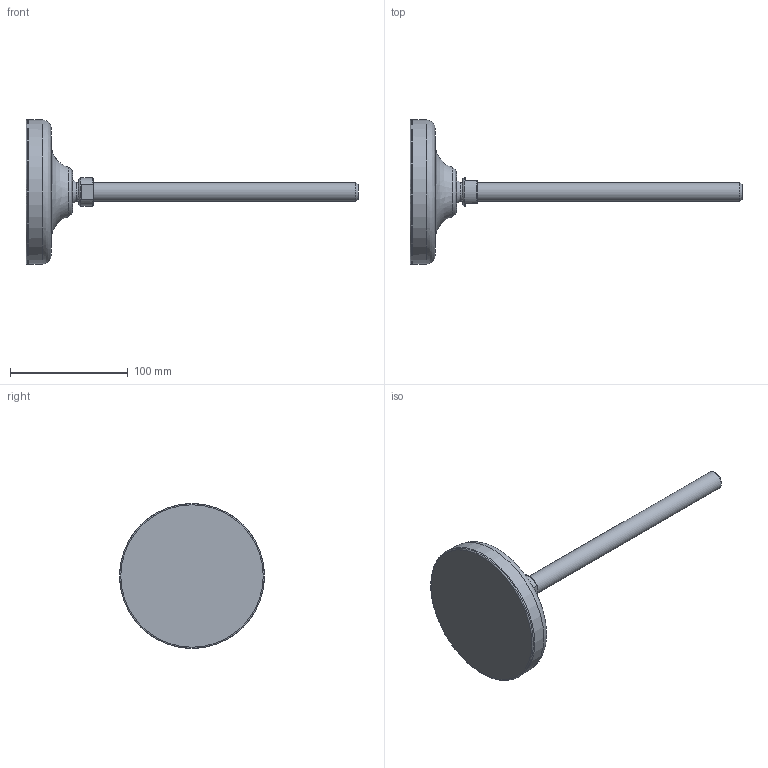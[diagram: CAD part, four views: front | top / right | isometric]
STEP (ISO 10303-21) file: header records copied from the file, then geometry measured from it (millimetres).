
FILE_DESCRIPTION(('STEP AP203'),'2;1');
FILE_NAME('10389.stp','2016-01-28T14:16:31',(''),(''),'2008.1.107','THINKDESIGN','');
FILE_SCHEMA(('CONFIG_CONTROL_DESIGN'));
Length unit declared in the file: millimetre
Bounding box: 282.03 x 123 x 123 mm (x, y, z)
Volume: 335970.7 mm3; surface area: 69725.3 mm2
Topology: 5 solids, 5 shells, 29 faces, 65 edges, 47 vertices
Faces by surface type: plane 15, bspline 10, cylinder 4
Full cylindrical faces by diameter (mm): 15.5 x1, 16 x1, 24 x1, 123 x1
Entity records: 1866 total; most frequent: CARTESIAN_POINT 1111, DIRECTION 146, ORIENTED_EDGE 130, AXIS2_PLACEMENT_3D 66, EDGE_CURVE 65, VERTEX_POINT 47, CIRCLE 47, EDGE_LOOP 30
